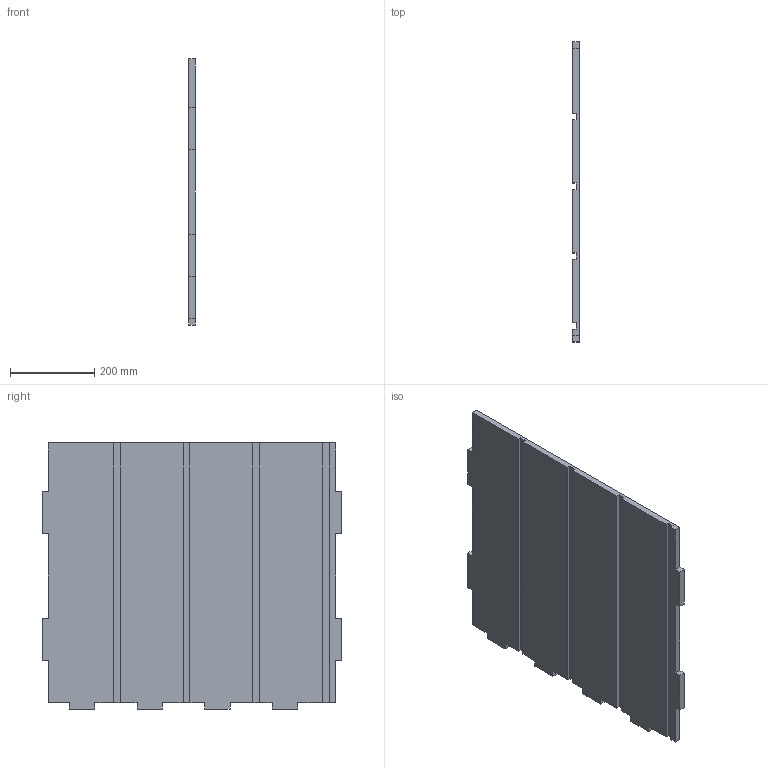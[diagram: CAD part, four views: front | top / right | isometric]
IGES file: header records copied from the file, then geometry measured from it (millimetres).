
Start section: SolidWorks IGES file using analytic representation for surfaces
Global section: file name: C:\Users\user\Documents\1_FabAcademy\week07\SolidW\iges\mueblelateral.IGS; native system: SolidWorks 2016; preprocessor: SolidWorks 2016; author: user; date: 170308.170727; units: millimetre
Bounding box: 15 x 710 x 630 mm (x, y, z)
Surface area: 933990 mm2 (no closed solid volume)
Topology: 0 solids, 0 shells, 54 faces, 312 edges, 312 vertices
Faces by surface type: bspline 54
